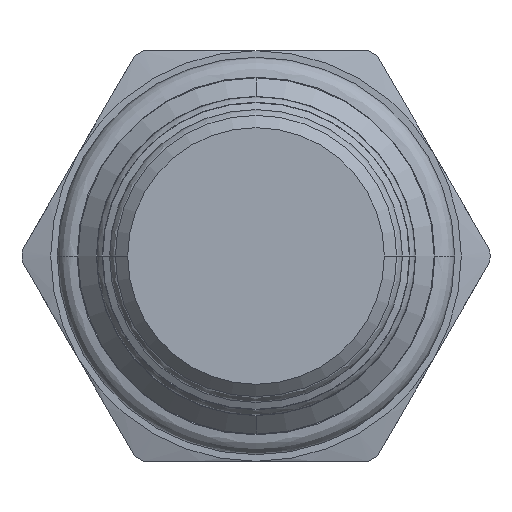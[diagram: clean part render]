
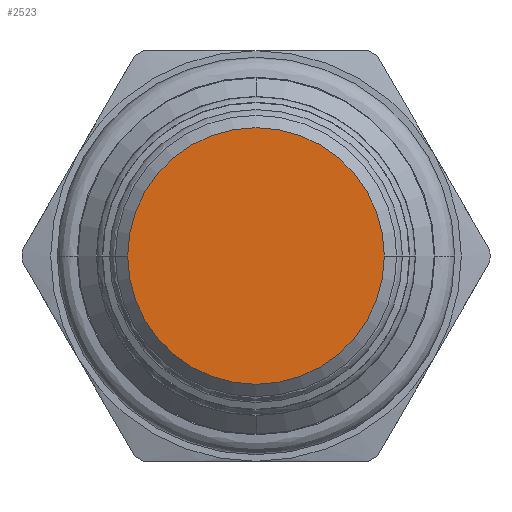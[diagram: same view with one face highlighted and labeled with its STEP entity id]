
A CAD part, front view. The second image highlights one B-rep face of the part: STEP entity #2523.
In plain terms, the highlighted planar face has unit normal (0, -1, 0).
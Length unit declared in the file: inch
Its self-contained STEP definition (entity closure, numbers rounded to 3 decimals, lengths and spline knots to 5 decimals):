
#928=CARTESIAN_POINT('',(0.,-1.856,0.));
#929=DIRECTION('',(0.,-1.,0.));
#930=DIRECTION('',(1.,0.,0.));
#931=AXIS2_PLACEMENT_3D('',#928,#929,#930);
#946=CARTESIAN_POINT('',(0.,-1.856,0.));
#947=DIRECTION('',(0.,-1.,0.));
#948=DIRECTION('',(-1.,0.,0.));
#949=AXIS2_PLACEMENT_3D('',#946,#947,#948);
#1095=CARTESIAN_POINT('',(-0.3125,-1.856,0.));
#1096=CARTESIAN_POINT('',(0.3125,-1.856,0.));
#1097=VERTEX_POINT('',#1095);
#1098=VERTEX_POINT('',#1096);
#2513=CARTESIAN_POINT('',(0.,-1.856,0.));
#2514=DIRECTION('',(0.,1.,0.));
#2515=DIRECTION('',(1.,0.,0.));
#2516=AXIS2_PLACEMENT_3D('',#2513,#2514,#2515);
#2517=PLANE('',#2516);
#2519=ORIENTED_EDGE('',*,*,#2518,.F.);
#2520=ORIENTED_EDGE('',*,*,#2503,.F.);
#2521=EDGE_LOOP('',(#2519,#2520));
#2522=FACE_OUTER_BOUND('',#2521,.F.);
#2523=ADVANCED_FACE('',(#2522),#2517,.F.);
#932=CIRCLE('',#931,0.3125);
#950=CIRCLE('',#949,0.3125);
#2503=EDGE_CURVE('',#1098,#1097,#932,.T.);
#2518=EDGE_CURVE('',#1097,#1098,#950,.T.);
